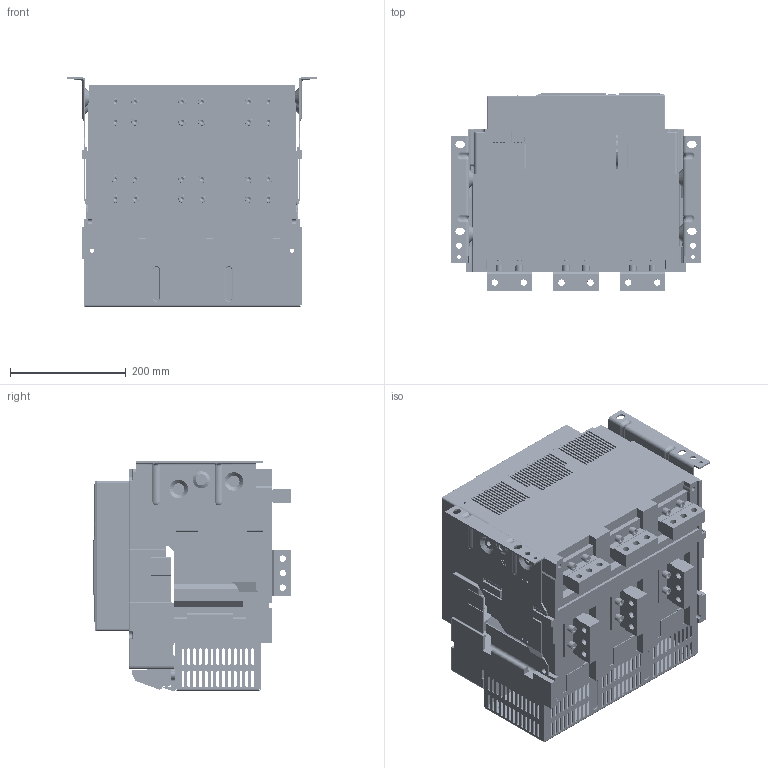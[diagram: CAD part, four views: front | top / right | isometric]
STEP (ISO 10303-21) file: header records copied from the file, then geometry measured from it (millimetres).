
FILE_DESCRIPTION((''),'2;1');
FILE_NAME('NA8-4000H-3P-F-1600A-2500A-VH_ASM','2021-11-10T17:08:07',('lcc'),(''),'CREO PARAMETRIC BY PTC INC, 2020044','CREO PARAMETRIC BY PTC INC, 2020044','');
FILE_SCHEMA(('CONFIG_CONTROL_DESIGN','SHAPE_APPEARANCE_LAYERS_GROUPS'));
Products named in the file (34): 4000-JIZUO-3P; 4000-DIBAN-3P; 8ZTD_123_166_2; 8ZTD_123_167_2; DEFAULT_BREP_X_03-883; DEFAULT_BREP_X_03-884; DEFAULT_BREP_X_03-885; DEFAULT_BREP_X_03-886; DEFAULT_BREP_X_03-887; DEFAULT_BREP_X_03-888; DEFAULT_BREP_X_03-889; 8ZTD_060_209_V4_1_ASM; 8ZTD-253-577; 8ZTD-253-779; 8ZTD-253-780; 8ZTD-321-090; 8-040-432; 8-004-030; 8-320-094; 8-860-KZQ; 8ZTD-253-782; 5ZTD-060-114-2_ASM; 8060A0306108; 8060A0306109; 3P-8300A0306005_; 8ZTD-064-138; 8ZTD-024-689; 8ZTD-860-511; 1600-DUANZI-CTS_ASM; 8580A0412008; GBT70_1-M8X20; GB93-8_1; QNKJ_0200012_2-M8X20_ASM; NA8-4000H-3P-F-1600A-2500A-VH_ASM
Assembly tree (74 placements, depth 4):
  NA8-4000H-3P-F-1600A-2500A-VH_ASM
    4000-JIZUO-3P
    4000-DIBAN-3P
    8ZTD_123_166_2
    8ZTD_123_167_2
    5ZTD-060-114-2_ASM
      8ZTD_060_209_V4_1_ASM
        DEFAULT_BREP_X_03-883
        DEFAULT_BREP_X_03-884
        DEFAULT_BREP_X_03-885
        DEFAULT_BREP_X_03-886
        DEFAULT_BREP_X_03-887
        DEFAULT_BREP_X_03-888
        DEFAULT_BREP_X_03-889
      8ZTD-253-577
      8ZTD-253-779
      8ZTD-253-780
      8ZTD-321-090
      8-040-432
      8-004-030
      8-320-094
      8-860-KZQ
      8ZTD-253-782
    8060A0306108
    8060A0306109
    3P-8300A0306005_
    1600-DUANZI-CTS_ASM
      8ZTD-064-138
      8ZTD-024-689  x14
      8ZTD-860-511
    8580A0412008  x6
    QNKJ_0200012_2-M8X20_ASM  x24
      GBT70_1-M8X20
      GB93-8_1
Bounding box: 430 x 341.12 x 396 mm (x, y, z)
Volume: 19514199 mm3; surface area: 2487748.9 mm2
Topology: 93 solids, 139 shells, 8768 faces, 23863 edges, 15524 vertices
Faces by surface type: plane 6105, cylinder 1698, cone 407, extrusion 225, bspline 180, torus 113, sphere 40
Entity records: 284466 total; most frequent: CARTESIAN_POINT 55275, ORIENTED_EDGE 32846, DIRECTION 29784, PRESENTATION_STYLE_ASSIGNMENT 19345, STYLED_ITEM 19225, EDGE_CURVE 16441, CURVE_STYLE 15038, VECTOR 12388
